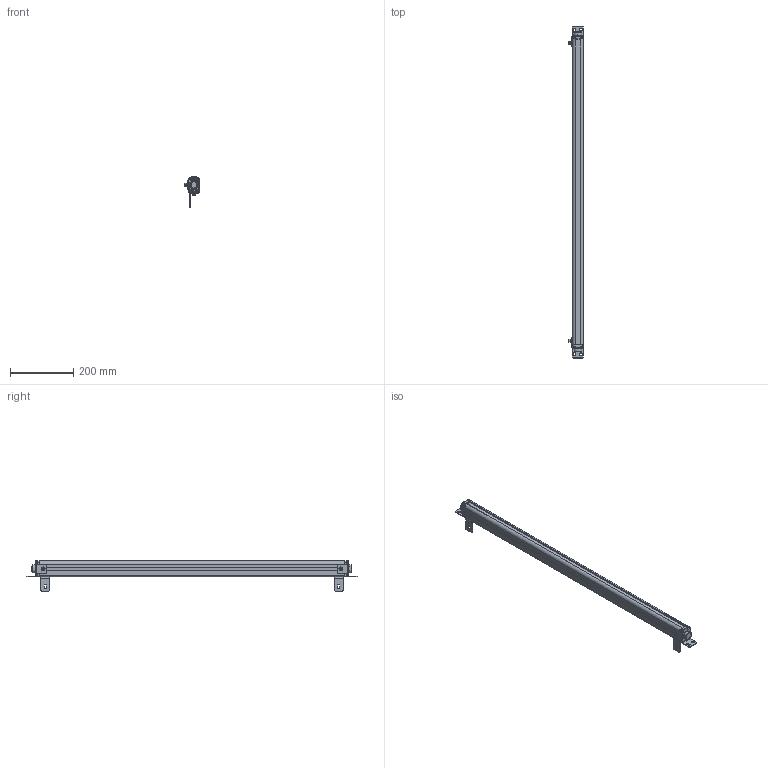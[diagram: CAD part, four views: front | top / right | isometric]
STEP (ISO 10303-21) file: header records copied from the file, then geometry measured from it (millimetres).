
FILE_DESCRIPTION((''),'2;1');
FILE_NAME('ESN--000_ASM','2021-08-11T16:26:14',('18720616900'),(''),'CREO PARAMETRIC BY PTC INC, 2019010','CREO PARAMETRIC BY PTC INC, 2019010','');
FILE_SCHEMA(('CONFIG_CONTROL_DESIGN'));
Products named in the file (22): 00; 000; _0002; _0003; _0004; 5000; 5--0001; ESN_50001_ASM; ST-3-120001; L10001; M6-8--0001; M6-1--00; M6-1-00; M6-80001_ASM; L1--0001_ASM; H1--000; H1--0003_ASM; H1--0001_ASM; ESN--000_ASM
Assembly tree (35 placements, depth 4):
  ESN--000_ASM
    00
    000
    _0002
    _0003
    _0004
    000
    ESN_50001_ASM
      5000
      5--0001  x5
    ST-3-120001  x8
    L1--0001_ASM  x2
      L10001
      M6-80001_ASM
        M6-8--0001
        M6-1--00
        M6-1-00
        00
    H1--0003_ASM
      H1--000
      M6-80001_ASM
        M6-8--0001
        M6-1--00
        M6-1-00
        00
    H1--0001_ASM
      H1--000
      M6-80001_ASM
        M6-8--0001
        M6-1--00
        M6-1-00
        00
Bounding box: 46.5 x 1047 x 94.95 mm (x, y, z)
Volume: 1485512.4 mm3; surface area: 317895.7 mm2
Topology: 40 solids, 40 shells, 1785 faces, 4708 edges, 3012 vertices
Faces by surface type: plane 583, cylinder 416, bspline 362, cone 291, torus 107, sphere 26
Entity records: 48222 total; most frequent: CARTESIAN_POINT 24957, ORIENTED_EDGE 5136, DIRECTION 4189, EDGE_CURVE 2568, VERTEX_POINT 1669, AXIS2_PLACEMENT_3D 1488, VECTOR 1213, LINE 1213
